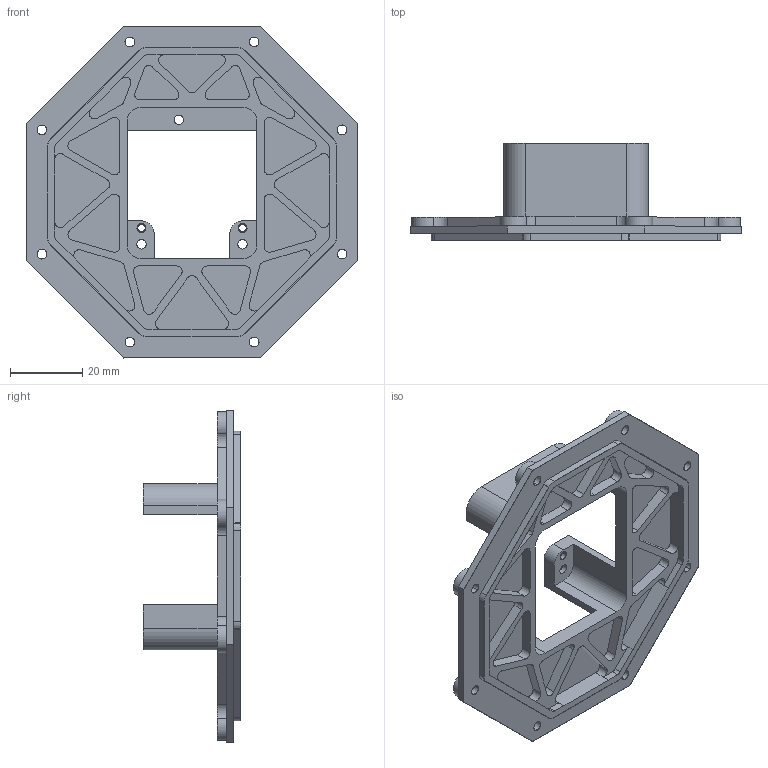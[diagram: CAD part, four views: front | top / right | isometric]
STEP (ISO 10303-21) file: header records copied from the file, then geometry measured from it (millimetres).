
FILE_DESCRIPTION(/* description */ ('VariCAD 2010-3.03 AP-214'),/* implementation_level */ '2;1');
FILE_NAME(/* name */ '0353-19-28A',/* time_stamp */ '2011-01-19T16:51:38-07:00',/* author */ (''),/* organization */ (''),/* preprocessor_version */ 'ST-DEVELOPER v12',/* originating_system */ 'VariCAD 2010-3.03; kernel version (20100102)',/* authorisation */ '');
FILE_SCHEMA (('AUTOMOTIVE_DESIGN'));
Length unit declared in the file: millimetre
Products named in the file (1): Part
Bounding box: 92 x 27 x 92 mm (x, y, z)
Volume: 21565.1 mm3; surface area: 26366.2 mm2
Topology: 4 solids, 4 shells, 383 faces, 1003 edges, 648 vertices
Faces by surface type: plane 193, cylinder 186, cone 4
Entity records: 14142 total; most frequent: DIRECTION 2155, CARTESIAN_POINT 2039, ORIENTED_EDGE 2006, EDGE_CURVE 1003, AXIS2_PLACEMENT_3D 764, VERTEX_POINT 648, LINE 627, VECTOR 627
